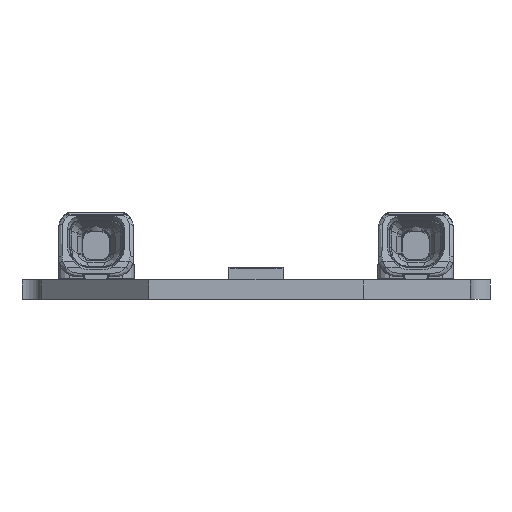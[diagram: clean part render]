
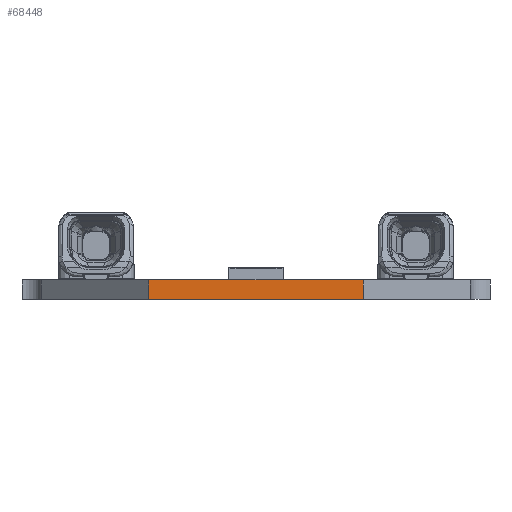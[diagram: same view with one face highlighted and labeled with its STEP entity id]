
A CAD part, left-side view. The second image highlights one B-rep face of the part: STEP entity #68448.
In plain terms, the highlighted planar face has unit normal (-1, 0, 0).
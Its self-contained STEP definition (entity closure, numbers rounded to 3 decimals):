
#2766=ORIENTED_EDGE('',*,*,#17049,.T.);
#2767=ORIENTED_EDGE('',*,*,#17112,.F.);
#2768=ORIENTED_EDGE('',*,*,#16895,.F.);
#2769=ORIENTED_EDGE('',*,*,#17113,.T.);
#16895=EDGE_CURVE('',#24159,#24160,#28879,.T.);
#17049=EDGE_CURVE('',#24255,#24313,#28977,.T.);
#17112=EDGE_CURVE('',#24160,#24313,#29036,.T.);
#17113=EDGE_CURVE('',#24159,#24255,#29037,.T.);
#24159=VERTEX_POINT('',#87855);
#24160=VERTEX_POINT('',#87857);
#24255=VERTEX_POINT('',#88048);
#24313=VERTEX_POINT('',#88164);
#28879=LINE('',#87856,#34875);
#28977=LINE('',#88165,#34973);
#29036=LINE('',#88294,#35032);
#29037=LINE('',#88296,#35033);
#34875=VECTOR('',#74918,1000.);
#34973=VECTOR('',#75130,1000.);
#35032=VECTOR('',#75321,1000.);
#35033=VECTOR('',#75324,1000.);
#40594=EDGE_LOOP('',(#2766,#2767,#2768,#2769));
#43676=FACE_BOUND('',#40594,.T.);
#46600=PLANE('',#71323);
#68448=ADVANCED_FACE('',(#43676),#46600,.F.);
#71323=AXIS2_PLACEMENT_3D('',#88295,#75322,#75323);
#74918=DIRECTION('',(0.,-1.,0.));
#75130=DIRECTION('',(0.,-1.,0.));
#75321=DIRECTION('',(0.,0.,-1.));
#75322=DIRECTION('',(1.,0.,0.));
#75323=DIRECTION('',(0.,0.,-1.));
#75324=DIRECTION('',(0.,0.,-1.));
#87855=CARTESIAN_POINT('',(-279.8,5.5,1.));
#87856=CARTESIAN_POINT('',(-279.8,5.5,1.));
#87857=CARTESIAN_POINT('',(-279.8,-5.5,1.));
#88048=CARTESIAN_POINT('',(-279.8,5.5,0.));
#88164=CARTESIAN_POINT('',(-279.8,-5.5,0.));
#88165=CARTESIAN_POINT('',(-279.8,5.5,0.));
#88294=CARTESIAN_POINT('',(-279.8,-5.5,1.));
#88295=CARTESIAN_POINT('',(-279.8,5.5,1.));
#88296=CARTESIAN_POINT('',(-279.8,5.5,1.));
